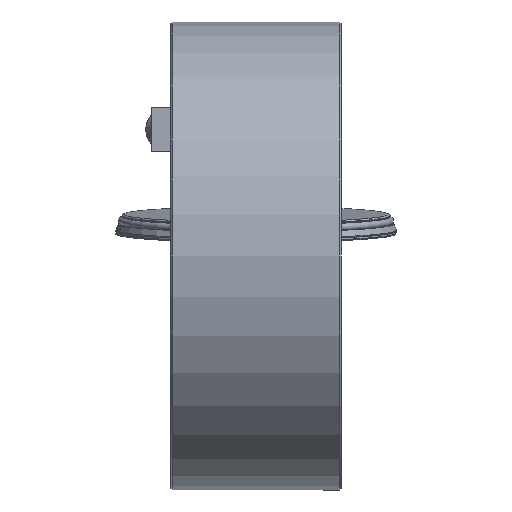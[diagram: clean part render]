
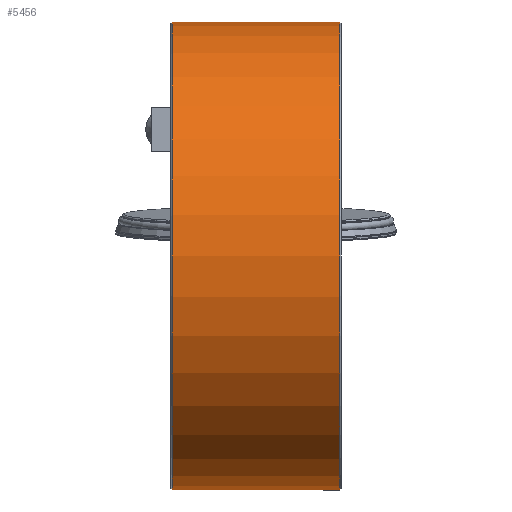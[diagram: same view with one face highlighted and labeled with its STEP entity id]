
A CAD part, left-side view. The second image highlights one B-rep face of the part: STEP entity #5456.
In plain terms, the highlighted cylindrical face has radius 82.5 mm (diameter 165 mm), a full revolution.
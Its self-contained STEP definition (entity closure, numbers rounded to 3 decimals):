
#3556=CYLINDRICAL_SURFACE('',#15294,82.5);
#4101=FACE_BOUND('',#7170,.T.);
#4102=FACE_BOUND('',#7171,.T.);
#4103=FACE_BOUND('',#7172,.T.);
#4814=CIRCLE('',#15285,82.5);
#4816=CIRCLE('',#15288,82.5);
#4818=CIRCLE('',#15291,82.5);
#4819=CIRCLE('',#15293,82.5);
#5456=ADVANCED_FACE('',(#4101,#4102,#4103),#3556,.T.);
#7170=EDGE_LOOP('',(#9261,#9262,#9263,#9264));
#7171=EDGE_LOOP('',(#9265));
#7172=EDGE_LOOP('',(#9266));
#9261=ORIENTED_EDGE('',*,*,#12543,.F.);
#9262=ORIENTED_EDGE('',*,*,#12511,.F.);
#9263=ORIENTED_EDGE('',*,*,#12541,.F.);
#9264=ORIENTED_EDGE('',*,*,#12529,.F.);
#9265=ORIENTED_EDGE('',*,*,#12546,.T.);
#9266=ORIENTED_EDGE('',*,*,#12545,.F.);
#11218=VERTEX_POINT('',#21376);
#11219=VERTEX_POINT('',#21378);
#11236=VERTEX_POINT('',#21418);
#11237=VERTEX_POINT('',#21420);
#11246=VERTEX_POINT('',#21451);
#11247=VERTEX_POINT('',#21454);
#12511=EDGE_CURVE('',#11218,#11219,#13618,.T.);
#12529=EDGE_CURVE('',#11236,#11237,#13634,.T.);
#12541=EDGE_CURVE('',#11237,#11218,#4814,.T.);
#12543=EDGE_CURVE('',#11219,#11236,#4816,.T.);
#12545=EDGE_CURVE('',#11246,#11246,#4818,.T.);
#12546=EDGE_CURVE('',#11247,#11247,#4819,.T.);
#13618=LINE('',#21377,#14317);
#13634=LINE('',#21419,#14333);
#14317=VECTOR('',#17701,1.);
#14333=VECTOR('',#17717,1.);
#15285=AXIS2_PLACEMENT_3D('',#21444,#17732,#17733);
#15288=AXIS2_PLACEMENT_3D('',#21447,#17738,#17739);
#15291=AXIS2_PLACEMENT_3D('',#21450,#17744,#17745);
#15293=AXIS2_PLACEMENT_3D('',#21453,#17748,#17749);
#15294=AXIS2_PLACEMENT_3D('',#21455,#17750,#17751);
#17701=DIRECTION('',(1.,0.,0.));
#17717=DIRECTION('',(-1.,0.,0.));
#17732=DIRECTION('',(1.,0.,0.));
#17733=DIRECTION('',(0.,0.,1.));
#17738=DIRECTION('',(-1.,0.,0.));
#17739=DIRECTION('',(0.,0.,-1.));
#17744=DIRECTION('',(-1.,0.,0.));
#17745=DIRECTION('',(0.,-1.,0.));
#17748=DIRECTION('',(-1.,0.,0.));
#17749=DIRECTION('',(0.,-1.,0.));
#17750=DIRECTION('',(-1.,0.,0.));
#17751=DIRECTION('',(0.,-1.,0.));
#21376=CARTESIAN_POINT('',(11.963,70.,43.661));
#21377=CARTESIAN_POINT('',(0.,70.,43.661));
#21378=CARTESIAN_POINT('',(48.038,70.,43.661));
#21418=CARTESIAN_POINT('',(48.038,70.,-43.661));
#21419=CARTESIAN_POINT('',(0.,70.,-43.661));
#21420=CARTESIAN_POINT('',(11.963,70.,-43.661));
#21444=CARTESIAN_POINT('',(11.963,0.,0.));
#21447=CARTESIAN_POINT('',(48.038,0.,0.));
#21450=CARTESIAN_POINT('',(0.5,0.,0.));
#21451=CARTESIAN_POINT('',(0.5,-82.5,0.));
#21453=CARTESIAN_POINT('',(59.5,0.,0.));
#21454=CARTESIAN_POINT('',(59.5,-82.5,0.));
#21455=CARTESIAN_POINT('',(0.,0.,0.));
